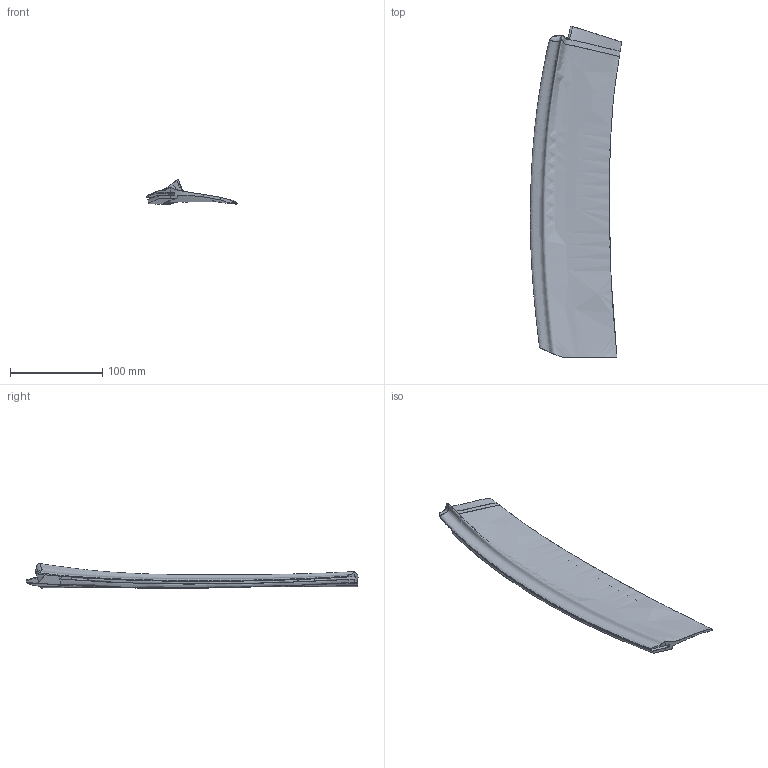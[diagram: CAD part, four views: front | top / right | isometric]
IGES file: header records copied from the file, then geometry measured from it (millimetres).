
Global section: file name: M:\YW_DESIGN\01_WORK_CURRENT\1_3D_ME\IVAN_NEDELCHEV_MUDFLAP\FLAP_MODEL_V8_for_PRINT\Flap_Model_V8_forPRINT.igs; native system: Rhinoceros ( Oct 24 2012 ); preprocessor: Trout Lake IGES 012 Oct 24 2012; date: 170511.125218; units: millimetre
Bounding box: 98.81 x 359.62 x 26.75 mm (x, y, z)
Surface area: 74797.5 mm2 (no closed solid volume)
Topology: 0 solids, 0 shells, 42 faces, 1412 edges, 1411 vertices
Faces by surface type: bspline 42
